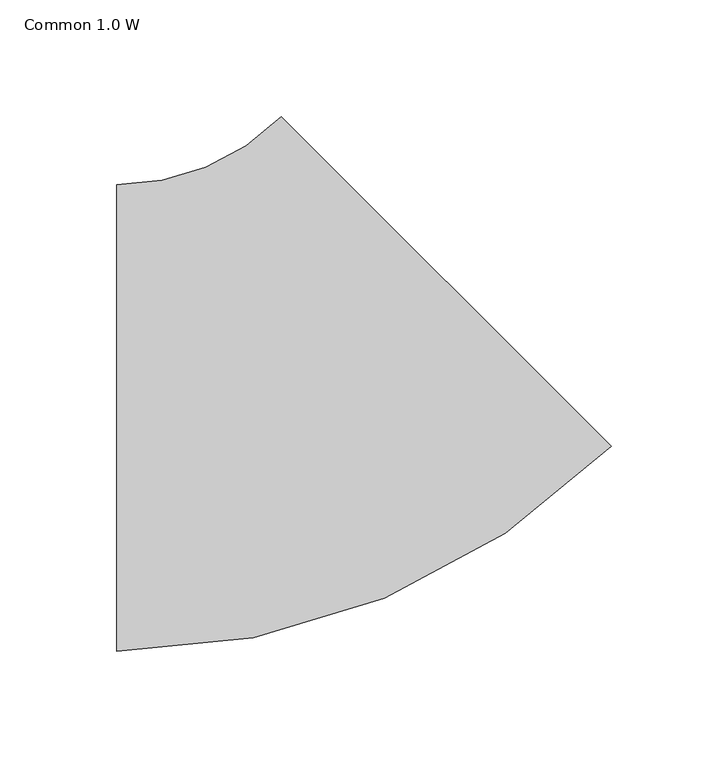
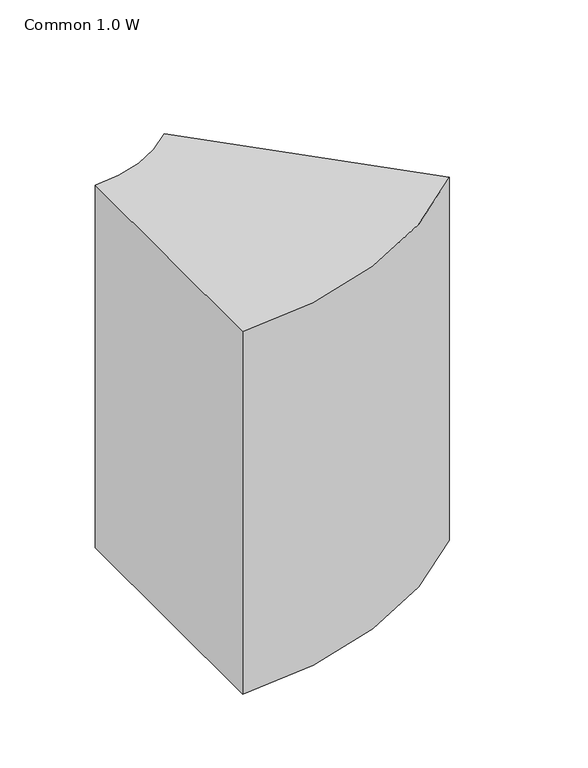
"""IFC4 building model written with IfcOpenShell, lengths in millimetres: duct fitting geometry, 011_角型エルボ - 半径 : Common 1.0 W."""

from ifc_helpers import new_model, si_unit, point, frame, frame_2d, origin, place, context, project, spatial, polyline, circle_curve, trimmed, segment, composite_curve, outline, extrude, source, transform, mapped, element, save


def common_1_0_w_5a3e512d(model_context):
    return source(origin(), model_context, "Body", "SweptSolid", [
        extrude(outline(composite_curve([segment(trimmed(circle_curve(frame_2d((-82.8427125, 200.0)), 300.0), [point((129.2893219, -12.1320344))], [point((-82.8427125, -100.0))], False, "CARTESIAN"), True, "CONTINUOUS"), segment(polyline([(-82.8427125, -100.0), (-82.8427125, 100.0)]), True, "CONTINUOUS"), segment(trimmed(circle_curve(frame_2d((-82.8427125, 200.0)), 100.0), [point((-82.8427125, 100.0))], [point((-12.1320344, 129.2893219))], True, "CARTESIAN"), True, "CONTINUOUS"), segment(polyline([(-12.1320344, 129.2893219), (129.2893219, -12.1320344)]), True, "CONTINUOUS")], self_intersect=False)), frame((0.0, 0.0, -150.0), z_axis=(0.0, 0.0, 1.0), x_axis=(1.0, 0.0, 0.0)), (0.0, 0.0, 1.0), 300.0),
    ])


if __name__ == "__main__":
    model = new_model("IFC4")
    model_context = context("Model", 3, world=origin())
    ifc_project = project(units=[si_unit("LENGTHUNIT", "METRE", prefix="MILLI")], contexts=[model_context])
    site = spatial("IfcSite", under=ifc_project)
    building = spatial("IfcBuilding", under=site)
    placement = place(None, origin())
    common_1_0_w_shape = common_1_0_w_5a3e512d(model_context)
    element("IfcDuctFitting", 1, ObjectType="011_角型エルボ - 半径 : Common 1.0 W", at=placement, inside=building, context=model_context, shape_type="MappedRepresentation", body=[
        mapped(common_1_0_w_shape, transform((0.0, 0.0, 0.0), x_axis=(1.0, 0.0, 0.0), y_axis=(0.0, 1.0, 0.0), z_axis=(0.0, 0.0, 1.0))),
    ])
    save(model, "model.ifc")
